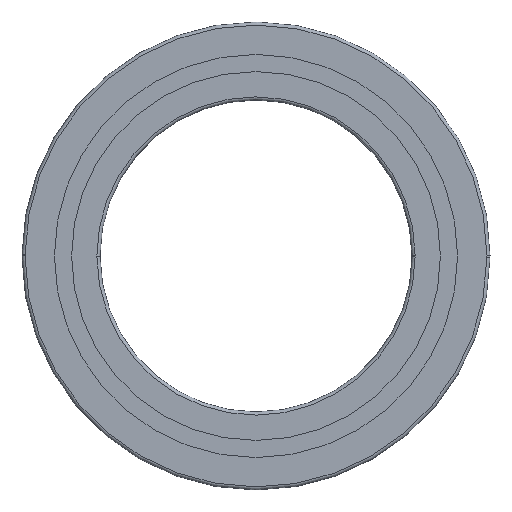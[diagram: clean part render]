
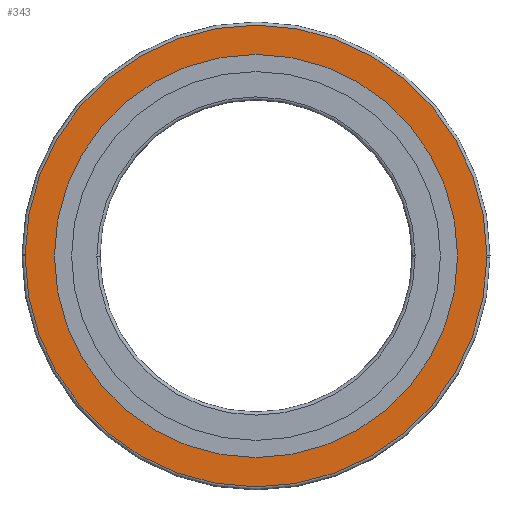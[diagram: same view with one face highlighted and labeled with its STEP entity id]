
A CAD part, front view. The second image highlights one B-rep face of the part: STEP entity #343.
In plain terms, the highlighted planar face has unit normal (0, -1, 0).
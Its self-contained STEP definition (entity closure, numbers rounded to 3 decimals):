
#317=EDGE_CURVE('',#553,#701,#855,.T.);
#343=ADVANCED_FACE('',(#883,#884),#885,.F.);
#397=VERTEX_POINT('',#945);
#419=EDGE_CURVE('',#773,#397,#968,.T.);
#495=VERTEX_POINT('',#1055);
#519=EDGE_CURVE('',#709,#495,#1081,.T.);
#553=VERTEX_POINT('',#1122);
#627=EDGE_CURVE('',#495,#709,#1207,.T.);
#701=VERTEX_POINT('',#1288);
#709=VERTEX_POINT('',#1296);
#717=EDGE_CURVE('',#397,#553,#1305,.T.);
#755=EDGE_CURVE('',#701,#773,#1347,.T.);
#773=VERTEX_POINT('',#1368);
#855=CIRCLE('',#1457,74.0);
#883=FACE_OUTER_BOUND('',#1491,.T.);
#884=FACE_BOUND('',#1492,.T.);
#885=PLANE('',#1493);
#945=CARTESIAN_POINT('',(74.0,0.0,0.0));
#968=CIRCLE('',#1601,74.0);
#1055=CARTESIAN_POINT('',(64.6,0.0,0.0));
#1081=CIRCLE('',#1737,64.6);
#1122=CARTESIAN_POINT('',(-73.999,0.0,0.458));
#1207=CIRCLE('',#1887,64.6);
#1288=CARTESIAN_POINT('',(-74.0,0.0,0.0));
#1296=CARTESIAN_POINT('',(-64.6,0.0,0.0));
#1305=CIRCLE('',#2013,74.0);
#1347=CIRCLE('',#2066,74.0);
#1368=CARTESIAN_POINT('',(73.999,0.0,-0.458));
#1457=AXIS2_PLACEMENT_3D('',#2165,#2166,#2167);
#1491=EDGE_LOOP('',(#2198,#2199,#2200,#2201));
#1492=EDGE_LOOP('',(#2202,#2203));
#1493=AXIS2_PLACEMENT_3D('',#2204,#2205,#2206);
#1601=AXIS2_PLACEMENT_3D('',#2309,#2310,#2311);
#1737=AXIS2_PLACEMENT_3D('',#2462,#2463,#2464);
#1887=AXIS2_PLACEMENT_3D('',#2631,#2632,#2633);
#2013=AXIS2_PLACEMENT_3D('',#2765,#2766,#2767);
#2066=AXIS2_PLACEMENT_3D('',#2826,#2827,#2828);
#2165=CARTESIAN_POINT('',(0.0,0.0,0.0));
#2166=DIRECTION('',(0.0,-1.0,0.0));
#2167=DIRECTION('',(1.0,0.0,0.0));
#2198=ORIENTED_EDGE('',*,*,#755,.T.);
#2199=ORIENTED_EDGE('',*,*,#419,.T.);
#2200=ORIENTED_EDGE('',*,*,#717,.T.);
#2201=ORIENTED_EDGE('',*,*,#317,.T.);
#2202=ORIENTED_EDGE('',*,*,#519,.F.);
#2203=ORIENTED_EDGE('',*,*,#627,.F.);
#2204=CARTESIAN_POINT('',(0.0,0.0,0.0));
#2205=DIRECTION('',(0.0,1.0,0.0));
#2206=DIRECTION('',(1.0,0.0,-0.0));
#2309=CARTESIAN_POINT('',(0.0,0.0,0.0));
#2310=DIRECTION('',(0.0,-1.0,0.0));
#2311=DIRECTION('',(-1.0,0.0,0.0));
#2462=CARTESIAN_POINT('',(0.0,0.0,0.0));
#2463=DIRECTION('',(0.0,-1.0,0.0));
#2464=DIRECTION('',(-1.0,0.0,0.0));
#2631=CARTESIAN_POINT('',(0.0,0.0,0.0));
#2632=DIRECTION('',(0.0,-1.0,0.0));
#2633=DIRECTION('',(1.0,0.0,0.0));
#2765=CARTESIAN_POINT('',(0.0,0.0,0.0));
#2766=DIRECTION('',(0.0,-1.0,0.0));
#2767=DIRECTION('',(1.0,0.0,0.0));
#2826=CARTESIAN_POINT('',(0.0,0.0,0.0));
#2827=DIRECTION('',(0.0,-1.0,0.0));
#2828=DIRECTION('',(-1.0,0.0,0.0));
